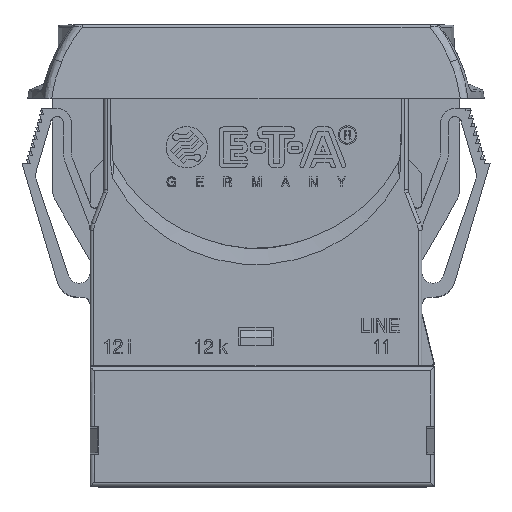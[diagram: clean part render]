
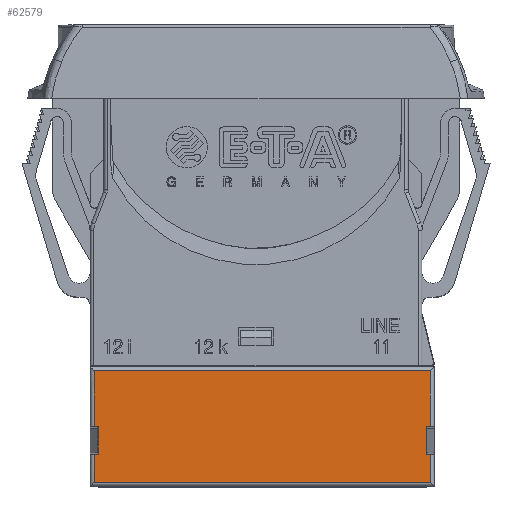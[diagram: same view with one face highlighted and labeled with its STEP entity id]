
A CAD part, top view. The second image highlights one B-rep face of the part: STEP entity #62579.
In plain terms, the highlighted planar face has unit normal (0, 0, 1).
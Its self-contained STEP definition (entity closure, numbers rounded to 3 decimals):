
#7303=CARTESIAN_POINT('',(21.5,-7.483,10.45));
#7333=CARTESIAN_POINT('',(-20.,-7.483,10.45));
#7419=CARTESIAN_POINT('',(21.5,-10.917,10.45));
#7441=CARTESIAN_POINT('',(-20.,-10.917,10.45));
#7455=DIRECTION('',(0.,-1.,0.));
#7456=VECTOR('',#7455,3.483);
#7457=CARTESIAN_POINT('',(-20.,-10.917,10.45));
#7458=LINE('',#7457,#7456);
#7459=DIRECTION('',(-1.,0.,0.));
#7460=VECTOR('',#7459,0.5);
#7461=CARTESIAN_POINT('',(-19.5,-10.917,10.45));
#7462=LINE('',#7461,#7460);
#7463=DIRECTION('',(0.,-1.,0.));
#7464=VECTOR('',#7463,3.435);
#7465=CARTESIAN_POINT('',(-19.5,-7.483,10.45));
#7466=LINE('',#7465,#7464);
#7467=DIRECTION('',(-1.,0.,0.));
#7468=VECTOR('',#7467,0.5);
#7469=CARTESIAN_POINT('',(-19.5,-7.483,10.45));
#7470=LINE('',#7469,#7468);
#7471=DIRECTION('',(0.,-1.,0.));
#7472=VECTOR('',#7471,6.883);
#7473=CARTESIAN_POINT('',(-20.,-0.6,10.45));
#7474=LINE('',#7473,#7472);
#7475=DIRECTION('',(-1.,0.,0.));
#7476=VECTOR('',#7475,41.5);
#7477=CARTESIAN_POINT('',(21.5,-0.6,10.45));
#7478=LINE('',#7477,#7476);
#7479=DIRECTION('',(0.,1.,0.));
#7480=VECTOR('',#7479,6.883);
#7481=CARTESIAN_POINT('',(21.5,-7.483,10.45));
#7482=LINE('',#7481,#7480);
#7483=DIRECTION('',(1.,0.,0.));
#7484=VECTOR('',#7483,0.5);
#7485=CARTESIAN_POINT('',(21.,-7.483,10.45));
#7486=LINE('',#7485,#7484);
#7487=DIRECTION('',(0.,-1.,0.));
#7488=VECTOR('',#7487,3.435);
#7489=CARTESIAN_POINT('',(21.,-7.483,10.45));
#7490=LINE('',#7489,#7488);
#7491=DIRECTION('',(1.,0.,0.));
#7492=VECTOR('',#7491,0.5);
#7493=CARTESIAN_POINT('',(21.,-10.917,10.45));
#7494=LINE('',#7493,#7492);
#7495=DIRECTION('',(0.,1.,0.));
#7496=VECTOR('',#7495,3.483);
#7497=CARTESIAN_POINT('',(21.5,-14.4,10.45));
#7498=LINE('',#7497,#7496);
#7499=DIRECTION('',(1.,0.,0.));
#7500=VECTOR('',#7499,41.5);
#7501=CARTESIAN_POINT('',(-20.,-14.4,10.45));
#7502=LINE('',#7501,#7500);
#29430=CARTESIAN_POINT('',(-20.,-0.6,10.45));
#50519=CARTESIAN_POINT('',(-19.5,-7.483,10.45));
#50520=CARTESIAN_POINT('',(-19.5,-10.917,10.45));
#50521=VERTEX_POINT('',#50519);
#50522=VERTEX_POINT('',#50520);
#50535=CARTESIAN_POINT('',(21.,-7.483,10.45));
#50536=CARTESIAN_POINT('',(21.,-10.917,10.45));
#50537=VERTEX_POINT('',#50535);
#50538=VERTEX_POINT('',#50536);
#50733=VERTEX_POINT('',#29430);
#50735=VERTEX_POINT('',#7441);
#50736=CARTESIAN_POINT('',(-20.,-14.4,10.45));
#50737=VERTEX_POINT('',#50736);
#50742=CARTESIAN_POINT('',(21.5,-14.4,10.45));
#50743=VERTEX_POINT('',#50742);
#50744=VERTEX_POINT('',#7419);
#50748=CARTESIAN_POINT('',(21.5,-0.6,10.45));
#50749=VERTEX_POINT('',#50748);
#50751=VERTEX_POINT('',#7303);
#50752=VERTEX_POINT('',#7333);
#62554=CARTESIAN_POINT('',(0.75,-7.5,10.45));
#62555=DIRECTION('',(0.,0.,1.));
#62556=DIRECTION('',(-1.,0.,0.));
#62557=AXIS2_PLACEMENT_3D('',#62554,#62555,#62556);
#62558=PLANE('',#62557);
#62560=ORIENTED_EDGE('',*,*,#62559,.F.);
#62561=ORIENTED_EDGE('',*,*,#62526,.F.);
#62563=ORIENTED_EDGE('',*,*,#62562,.F.);
#62564=ORIENTED_EDGE('',*,*,#62387,.T.);
#62566=ORIENTED_EDGE('',*,*,#62565,.F.);
#62568=ORIENTED_EDGE('',*,*,#62567,.F.);
#62570=ORIENTED_EDGE('',*,*,#62569,.F.);
#62571=ORIENTED_EDGE('',*,*,#62350,.F.);
#62572=ORIENTED_EDGE('',*,*,#62548,.T.);
#62573=ORIENTED_EDGE('',*,*,#62509,.T.);
#62574=ORIENTED_EDGE('',*,*,#62488,.F.);
#62576=ORIENTED_EDGE('',*,*,#62575,.F.);
#62577=EDGE_LOOP('',(#62560,#62561,#62563,#62564,#62566,#62568,#62570,#62571,
#62572,#62573,#62574,#62576));
#62578=FACE_OUTER_BOUND('',#62577,.F.);
#62350=EDGE_CURVE('',#50537,#50751,#7486,.T.);
#62387=EDGE_CURVE('',#50521,#50752,#7470,.T.);
#62488=EDGE_CURVE('',#50743,#50744,#7498,.T.);
#62509=EDGE_CURVE('',#50538,#50744,#7494,.T.);
#62526=EDGE_CURVE('',#50522,#50735,#7462,.T.);
#62548=EDGE_CURVE('',#50537,#50538,#7490,.T.);
#62559=EDGE_CURVE('',#50735,#50737,#7458,.T.);
#62562=EDGE_CURVE('',#50521,#50522,#7466,.T.);
#62565=EDGE_CURVE('',#50733,#50752,#7474,.T.);
#62567=EDGE_CURVE('',#50749,#50733,#7478,.T.);
#62569=EDGE_CURVE('',#50751,#50749,#7482,.T.);
#62575=EDGE_CURVE('',#50737,#50743,#7502,.T.);
#62579=ADVANCED_FACE('',(#62578),#62558,.T.);
